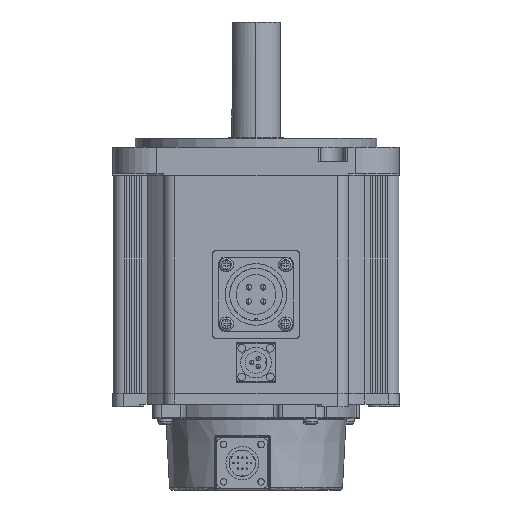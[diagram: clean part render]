
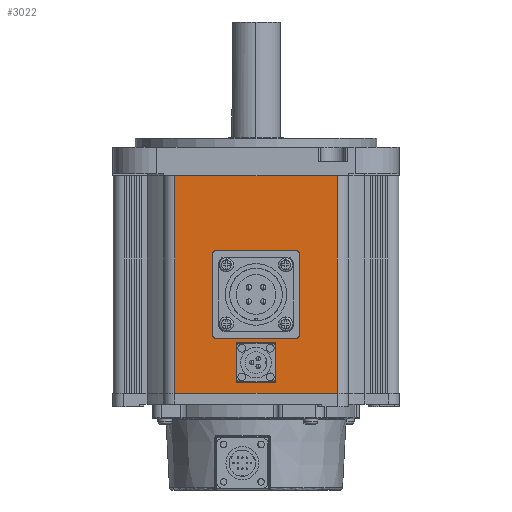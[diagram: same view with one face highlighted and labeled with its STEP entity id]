
A CAD part, front view. The second image highlights one B-rep face of the part: STEP entity #3022.
In plain terms, the highlighted planar face has unit normal (0, -1, 0) as drawn and (0, 1, 0) by its records, which use the part's own axes.
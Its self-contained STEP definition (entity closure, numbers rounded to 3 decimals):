
#113 = VERTEX_POINT ( 'NONE', #9052 ) ;
#1025 = AXIS2_PLACEMENT_3D ( 'NONE', #23296, #16032, #23193 ) ;
#1073 = AXIS2_PLACEMENT_3D ( 'NONE', #13517, #31124, #13296 ) ;
#1248 = CARTESIAN_POINT ( 'NONE',  ( -37., 65., 99. ) ) ;
#2075 = LINE ( 'NONE', #21487, #28076 ) ;
#2350 = EDGE_CURVE ( 'NONE', #113, #26666, #7134, .T. ) ;
#3022 = ADVANCED_FACE ( 'NONE', ( #31487, #13379, #21248 ), #31421, .F. ) ;
#3206 = ORIENTED_EDGE ( 'NONE', *, *, #29859, .F. ) ;
#3692 = EDGE_CURVE ( 'NONE', #26361, #18829, #5462, .T. ) ;
#3769 = VECTOR ( 'NONE', #8840, 1000. ) ;
#3994 = CARTESIAN_POINT ( 'NONE',  ( -37., 65., 99. ) ) ;
#4498 = ORIENTED_EDGE ( 'NONE', *, *, #3692, .T. ) ;
#5033 = EDGE_CURVE ( 'NONE', #31707, #27178, #7360, .T. ) ;
#5462 = LINE ( 'NONE', #14040, #32259 ) ;
#5645 = DIRECTION ( 'NONE',  ( 0., 0., -1. ) ) ;
#6043 = DIRECTION ( 'NONE',  ( 0., 1., 0. ) ) ;
#6743 = DIRECTION ( 'NONE',  ( 0., 1., 0. ) ) ;
#7134 = CIRCLE ( 'NONE', #8763, 5. ) ;
#7360 = CIRCLE ( 'NONE', #8808, 5. ) ;
#7918 = EDGE_LOOP ( 'NONE', ( #25519, #18492 ) ) ;
#8244 = CARTESIAN_POINT ( 'NONE',  ( 0., 65., 45. ) ) ;
#8763 = AXIS2_PLACEMENT_3D ( 'NONE', #8244, #6043, #18574 ) ;
#8808 = AXIS2_PLACEMENT_3D ( 'NONE', #21816, #6743, #19391 ) ;
#8840 = DIRECTION ( 'NONE',  ( -1., 0., 0. ) ) ;
#9052 = CARTESIAN_POINT ( 'NONE',  ( 5., 65., 45. ) ) ;
#9829 = CARTESIAN_POINT ( 'NONE',  ( -5., 65., 14. ) ) ;
#11346 = VERTEX_POINT ( 'NONE', #32217 ) ;
#12081 = ORIENTED_EDGE ( 'NONE', *, *, #20709, .T. ) ;
#12743 = CARTESIAN_POINT ( 'NONE',  ( -5., 65., 45. ) ) ;
#13296 = DIRECTION ( 'NONE',  ( -1., 0., 0. ) ) ;
#13379 = FACE_BOUND ( 'NONE', #19379, .T. ) ;
#13517 = CARTESIAN_POINT ( 'NONE',  ( 0., 65., 45. ) ) ;
#14040 = CARTESIAN_POINT ( 'NONE',  ( -37., 65., 0. ) ) ;
#14378 = DIRECTION ( 'NONE',  ( -1., 0., 0. ) ) ;
#16032 = DIRECTION ( 'NONE',  ( 0., 1., 0. ) ) ;
#16187 = LINE ( 'NONE', #30854, #24435 ) ;
#16502 = DIRECTION ( 'NONE',  ( 1., 0., 0. ) ) ;
#16868 = DIRECTION ( 'NONE',  ( 0., -1., 0. ) ) ;
#17177 = LINE ( 'NONE', #29167, #3769 ) ;
#17756 = VERTEX_POINT ( 'NONE', #3994 ) ;
#17804 = CARTESIAN_POINT ( 'NONE',  ( 5., 65., 14. ) ) ;
#17916 = ORIENTED_EDGE ( 'NONE', *, *, #31488, .F. ) ;
#18492 = ORIENTED_EDGE ( 'NONE', *, *, #5033, .F. ) ;
#18574 = DIRECTION ( 'NONE',  ( -1., 0., 0. ) ) ;
#18829 = VERTEX_POINT ( 'NONE', #19293 ) ;
#19293 = CARTESIAN_POINT ( 'NONE',  ( -37., 65., 0. ) ) ;
#19379 = EDGE_LOOP ( 'NONE', ( #24544, #22890 ) ) ;
#19391 = DIRECTION ( 'NONE',  ( -1., 0., 0. ) ) ;
#20709 = EDGE_CURVE ( 'NONE', #11346, #26361, #16187, .T. ) ;
#21248 = FACE_OUTER_BOUND ( 'NONE', #28997, .T. ) ;
#21487 = CARTESIAN_POINT ( 'NONE',  ( -37., 65., 99. ) ) ;
#21816 = CARTESIAN_POINT ( 'NONE',  ( 0., 65., 14. ) ) ;
#22125 = CIRCLE ( 'NONE', #1025, 5. ) ;
#22890 = ORIENTED_EDGE ( 'NONE', *, *, #2350, .F. ) ;
#23193 = DIRECTION ( 'NONE',  ( -1., 0., 0. ) ) ;
#23296 = CARTESIAN_POINT ( 'NONE',  ( 0., 65., 14. ) ) ;
#24435 = VECTOR ( 'NONE', #5645, 1000. ) ;
#24544 = ORIENTED_EDGE ( 'NONE', *, *, #28120, .F. ) ;
#25519 = ORIENTED_EDGE ( 'NONE', *, *, #26155, .F. ) ;
#26155 = EDGE_CURVE ( 'NONE', #27178, #31707, #22125, .T. ) ;
#26361 = VERTEX_POINT ( 'NONE', #31574 ) ;
#26666 = VERTEX_POINT ( 'NONE', #12743 ) ;
#26697 = CIRCLE ( 'NONE', #1073, 5. ) ;
#27178 = VERTEX_POINT ( 'NONE', #9829 ) ;
#28076 = VECTOR ( 'NONE', #29060, 1000. ) ;
#28120 = EDGE_CURVE ( 'NONE', #26666, #113, #26697, .T. ) ;
#28997 = EDGE_LOOP ( 'NONE', ( #4498, #17916, #3206, #12081 ) ) ;
#29060 = DIRECTION ( 'NONE',  ( 0., 0., -1. ) ) ;
#29167 = CARTESIAN_POINT ( 'NONE',  ( -37., 65., 99. ) ) ;
#29859 = EDGE_CURVE ( 'NONE', #11346, #17756, #17177, .T. ) ;
#30854 = CARTESIAN_POINT ( 'NONE',  ( 37., 65., 99. ) ) ;
#31124 = DIRECTION ( 'NONE',  ( 0., 1., 0. ) ) ;
#31421 = PLANE ( 'NONE',  #32204 ) ;
#31487 = FACE_BOUND ( 'NONE', #7918, .T. ) ;
#31488 = EDGE_CURVE ( 'NONE', #17756, #18829, #2075, .T. ) ;
#31574 = CARTESIAN_POINT ( 'NONE',  ( 37., 65., 0. ) ) ;
#31707 = VERTEX_POINT ( 'NONE', #17804 ) ;
#32204 = AXIS2_PLACEMENT_3D ( 'NONE', #1248, #16868, #16502 ) ;
#32217 = CARTESIAN_POINT ( 'NONE',  ( 37., 65., 99. ) ) ;
#32259 = VECTOR ( 'NONE', #14378, 1000. ) ;
